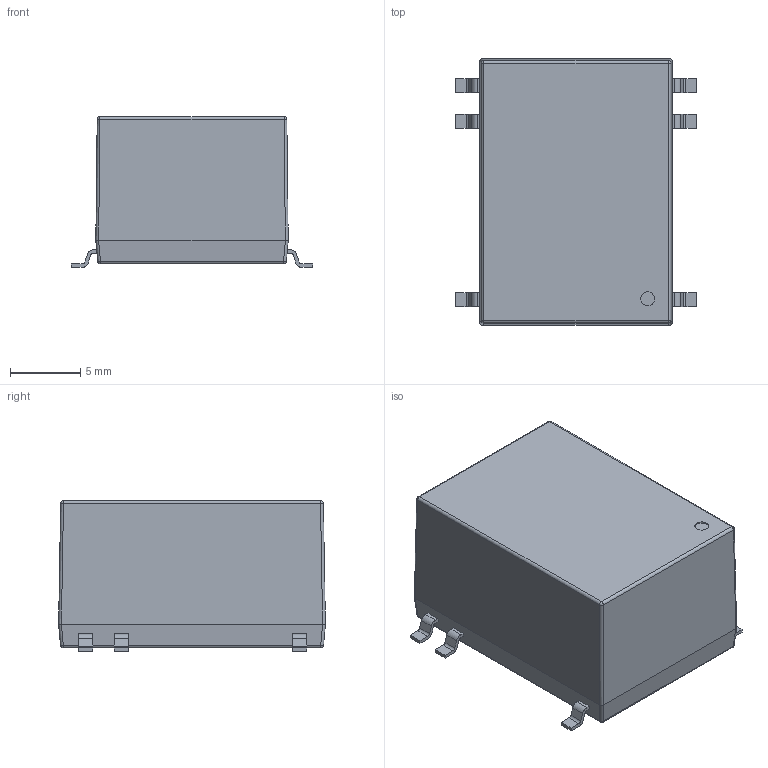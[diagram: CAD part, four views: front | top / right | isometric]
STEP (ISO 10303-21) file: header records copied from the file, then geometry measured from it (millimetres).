
FILE_DESCRIPTION(/* description */ (''),/* implementation_level */ '2;1');
FILE_NAME(/* name */ 'C:\Users\Calliope\Documents\Inventor\MIW06_MIWI06\3D\X2\5C3A5BF8591689C0\X0\\型錄用-STEP檔\MSCU01M.stp',/* time_stamp */ '2016-09-21T13:04:15+08:00',/* author */ ('Calliope'),/* organization */ (''),/* preprocessor_version */ 'ST-DEVELOPER v15.6',/* originating_system */ 'Autodesk Inventor 2015',/* authorisation */ '');
FILE_SCHEMA (('AUTOMOTIVE_DESIGN { 1 0 10303 214 3 1 1 }'));
Length unit declared in the file: millimetre
Products named in the file (3): MSCU01M Header; MSCU01M Cover; MSCU01M
Assembly tree (2 placements, depth 2):
  MSCU01M
    MSCU01M Header
    MSCU01M Cover
Bounding box: 17.2 x 19 x 10.75 mm (x, y, z)
Volume: 1095.5 mm3; surface area: 2290.3 mm2
Topology: 2 solids, 2 shells, 175 faces, 441 edges, 274 vertices
Faces by surface type: plane 108, cylinder 55, sphere 12
Full cylindrical faces by diameter (mm): 1 x2, 1.5 x1
Entity records: 5272 total; most frequent: DIRECTION 896, CARTESIAN_POINT 880, ORIENTED_EDGE 852, EDGE_CURVE 426, LINE 316, VECTOR 316, AXIS2_PLACEMENT_3D 290, VERTEX_POINT 274
